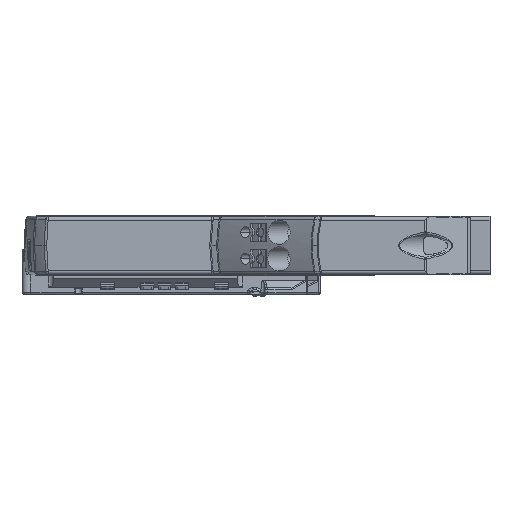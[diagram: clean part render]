
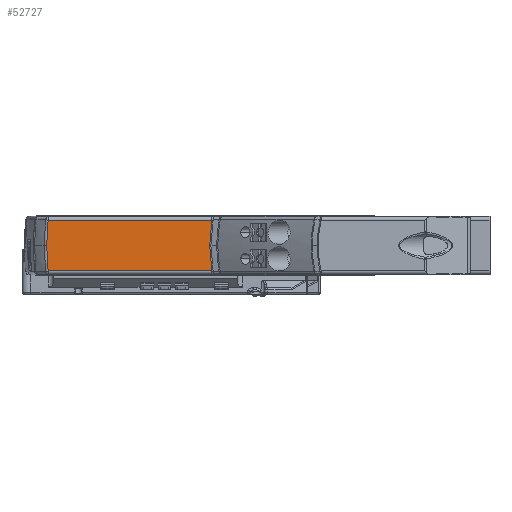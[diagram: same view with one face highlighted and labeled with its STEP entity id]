
A CAD part, left-side view. The second image highlights one B-rep face of the part: STEP entity #52727.
In plain terms, the highlighted planar face has unit normal (-1, 0, 0).
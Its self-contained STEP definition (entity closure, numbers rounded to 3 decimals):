
#16540=DIRECTION('',(0.,-1.,0.));
#16541=VECTOR('',#16540,34.465);
#16542=CARTESIAN_POINT('',(-26.,86.504,-5.35));
#16543=LINE('',#16542,#16541);
#16544=CARTESIAN_POINT('',(-26.,86.811,0.));
#16545=CARTESIAN_POINT('',(-26.,86.811,-0.596));
#16546=CARTESIAN_POINT('',(-26.,86.788,
-1.787));
#16547=CARTESIAN_POINT('',(-26.,86.686,
-3.572));
#16548=CARTESIAN_POINT('',(-26.,86.572,
-4.758));
#16549=CARTESIAN_POINT('',(-26.,86.504,-5.35));
#16551=CARTESIAN_POINT('',(-26.,86.504,5.35));
#16552=CARTESIAN_POINT('',(-26.,86.572,4.758));
#16553=CARTESIAN_POINT('',(-26.,86.686,3.572));
#16554=CARTESIAN_POINT('',(-26.,86.788,1.787));
#16555=CARTESIAN_POINT('',(-26.,86.811,0.596));
#16556=CARTESIAN_POINT('',(-26.,86.811,0.));
#16558=DIRECTION('',(0.,1.,0.));
#16559=VECTOR('',#16558,34.465);
#16560=CARTESIAN_POINT('',(-26.,52.039,
5.35));
#16561=LINE('',#16560,#16559);
#16562=CARTESIAN_POINT('',(-26.,52.039,
5.35));
#16563=CARTESIAN_POINT('',(-26.,52.1,
4.993));
#16564=CARTESIAN_POINT('',(-26.,52.211,
4.279));
#16565=CARTESIAN_POINT('',(-26.,52.339,
3.208));
#16566=CARTESIAN_POINT('',(-26.,52.431,
2.139));
#16567=CARTESIAN_POINT('',(-26.,52.486,
1.069));
#16568=CARTESIAN_POINT('',(-26.,52.498,
0.356));
#16569=CARTESIAN_POINT('',(-26.,52.498,0.));
#16571=CARTESIAN_POINT('',(-26.,52.498,0.));
#16572=CARTESIAN_POINT('',(-26.,52.498,
-0.357));
#16573=CARTESIAN_POINT('',(-26.,52.486,
-1.069));
#16574=CARTESIAN_POINT('',(-26.,52.431,
-2.139));
#16575=CARTESIAN_POINT('',(-26.,52.339,
-3.208));
#16576=CARTESIAN_POINT('',(-26.,52.211,
-4.279));
#16577=CARTESIAN_POINT('',(-26.,52.1,
-4.993));
#16578=CARTESIAN_POINT('',(-26.,52.039,
-5.35));
#16590=CARTESIAN_POINT('',(-26.,52.039,
-5.35));
#26355=CARTESIAN_POINT('',(-26.,52.039,
5.35));
#26356=CARTESIAN_POINT('',(-26.,86.504,5.35));
#26357=VERTEX_POINT('',#26355);
#26358=VERTEX_POINT('',#26356);
#26371=CARTESIAN_POINT('',(-26.,86.811,0.));
#26372=VERTEX_POINT('',#26371);
#26377=CARTESIAN_POINT('',(-26.,52.498,0.));
#26378=VERTEX_POINT('',#26377);
#26405=VERTEX_POINT('',#16590);
#26407=CARTESIAN_POINT('',(-26.,86.504,-5.35));
#26408=VERTEX_POINT('',#26407);
#52710=CARTESIAN_POINT('',(-26.,46.22,-7.99));
#52711=DIRECTION('',(1.,0.,0.));
#52712=DIRECTION('',(0.,1.,0.));
#52713=AXIS2_PLACEMENT_3D('',#52710,#52711,#52712);
#52714=PLANE('',#52713);
#52716=ORIENTED_EDGE('',*,*,#52715,.F.);
#52718=ORIENTED_EDGE('',*,*,#52717,.F.);
#52719=ORIENTED_EDGE('',*,*,#52676,.F.);
#52720=ORIENTED_EDGE('',*,*,#52701,.F.);
#52722=ORIENTED_EDGE('',*,*,#52721,.T.);
#52724=ORIENTED_EDGE('',*,*,#52723,.T.);
#52725=EDGE_LOOP('',(#52716,#52718,#52719,#52720,#52722,#52724));
#52726=FACE_OUTER_BOUND('',#52725,.F.);
#16550=B_SPLINE_CURVE_WITH_KNOTS('',3,(#16544,#16545,#16546,#16547,#16548,
#16549),.UNSPECIFIED.,.F.,.F.,(4,1,1,4),(0.,0.333,
0.667,1.),.UNSPECIFIED.);
#16557=B_SPLINE_CURVE_WITH_KNOTS('',3,(#16551,#16552,#16553,#16554,#16555,
#16556),.UNSPECIFIED.,.F.,.F.,(4,1,1,4),(0.,0.333,
0.667,1.),.UNSPECIFIED.);
#16570=B_SPLINE_CURVE_WITH_KNOTS('',3,(#16562,#16563,#16564,#16565,#16566,
#16567,#16568,#16569),.UNSPECIFIED.,.F.,.F.,(4,1,1,1,1,4),(0.,0.2,0.4,
0.6,0.8,1.),.UNSPECIFIED.);
#16579=B_SPLINE_CURVE_WITH_KNOTS('',3,(#16571,#16572,#16573,#16574,#16575,
#16576,#16577,#16578),.UNSPECIFIED.,.F.,.F.,(4,1,1,1,1,4),(0.,0.2,0.4,
0.6,0.8,1.),.UNSPECIFIED.);
#52676=EDGE_CURVE('',#26358,#26372,#16557,.T.);
#52701=EDGE_CURVE('',#26357,#26358,#16561,.T.);
#52715=EDGE_CURVE('',#26408,#26405,#16543,.T.);
#52717=EDGE_CURVE('',#26372,#26408,#16550,.T.);
#52721=EDGE_CURVE('',#26357,#26378,#16570,.T.);
#52723=EDGE_CURVE('',#26378,#26405,#16579,.T.);
#52727=ADVANCED_FACE('',(#52726),#52714,.F.);
